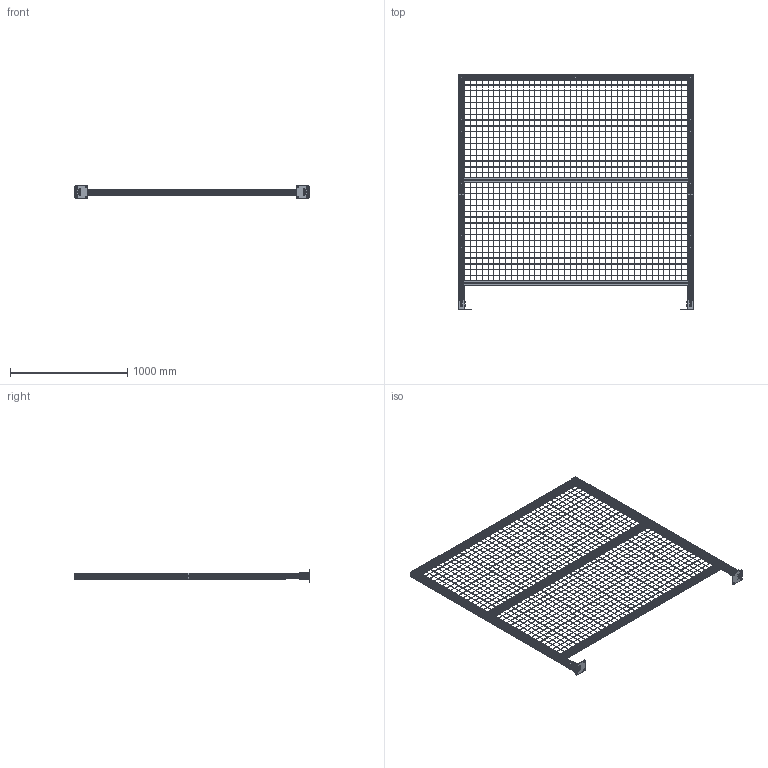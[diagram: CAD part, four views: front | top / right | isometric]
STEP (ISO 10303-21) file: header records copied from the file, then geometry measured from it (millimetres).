
FILE_DESCRIPTION (( 'STEP AP214' ), '1' );
FILE_NAME ('SG-45-2000-2000.STEP', '2024-03-29T13:23:02', ( '' ), ( '' ), 'SwSTEP 2.0', 'SolidWorks 2022', '' );
FILE_SCHEMA (( 'AUTOMOTIVE_DESIGN' ));
Length unit declared in the file: millimetre
Products named in the file (21): ZP-10-1S_L=1800 мм; ZP-10-2S_L=1910 мм; Винт с внутренним шестигранником ISO 4762 (без резьбы)_М6х30 30ХГСА; 5074; OB-4545SL Профиль 45х45 мм. Суперлегкий, Паз 10 мм (Без покрытия)_L=1910 мм; Шайба увеличенная ГОСТ 6958-78_М8 ГОСТ 6958-78; OB-4545SL Профиль 45х45 мм. Суперлегкий, Паз 10 мм (Без покрытия)_L=2000 мм; 11451-М1-4; 4004; ZP-10-1S_L=1910 мм; Винт полусфера ISO 7380_М8х20; 11451-М1-1; 5108 новый_Упрощенный; Сетка 1940х870; 11451-М1-3; 11451-М1-2; 11451-М1; SG-45-2000-2000
Assembly tree (88 placements, depth 3):
  SG-45-2000-2000
    OB-4545SL Профиль 45х45 мм. Суперлегкий, Паз 10 мм (Без покрытия)_L=2000 мм
    11451-М1  x2
      11451-М1-1
      11451-М1-2
      11451-М1-3
      11451-М1-4
    OB-4545SL Профиль 45х45 мм. Суперлегкий, Паз 10 мм (Без покрытия)_L=2000 мм
    OB-4545SL Профиль 45х45 мм. Суперлегкий, Паз 10 мм (Без покрытия)_L=1910 мм
    OB-4545SL Профиль 45х45 мм. Суперлегкий, Паз 10 мм (Без покрытия)_L=1910 мм
    Сетка 1940х870  x2
    ZP-10-1S_L=1800 мм  x2
    ZP-10-1S_L=1910 мм  x2
    Винт с внутренним шестигранником ISO 4762 (без резьбы)_М6х30 30ХГСА  x24
    5108 новый_Упрощенный  x6
    4004  x2
    Винт полусфера ISO 7380_М8х20  x12
    5074  x12
    Шайба увеличенная ГОСТ 6958-78_М8 ГОСТ 6958-78  x12
    OB-4545SL Профиль 45х45 мм. Суперлегкий, Паз 10 мм (Без покрытия)_L=1910 мм
    ZP-10-2S_L=1910 мм
Bounding box: 2000 x 2008.1 x 110 mm (x, y, z)
Volume: 7018443 mm3; surface area: 9378724.5 mm2
Topology: 342 solids, 342 shells, 7286 faces, 18720 edges, 11908 vertices
Faces by surface type: plane 3829, cylinder 2361, bspline 448, cone 228, sphere 216, torus 204
Entity records: 131657 total; most frequent: CARTESIAN_POINT 30825, ORIENTED_EDGE 20774, DIRECTION 18681, EDGE_CURVE 10387, VERTEX_POINT 6872, VECTOR 6265, LINE 6265, AXIS2_PLACEMENT_3D 6208
